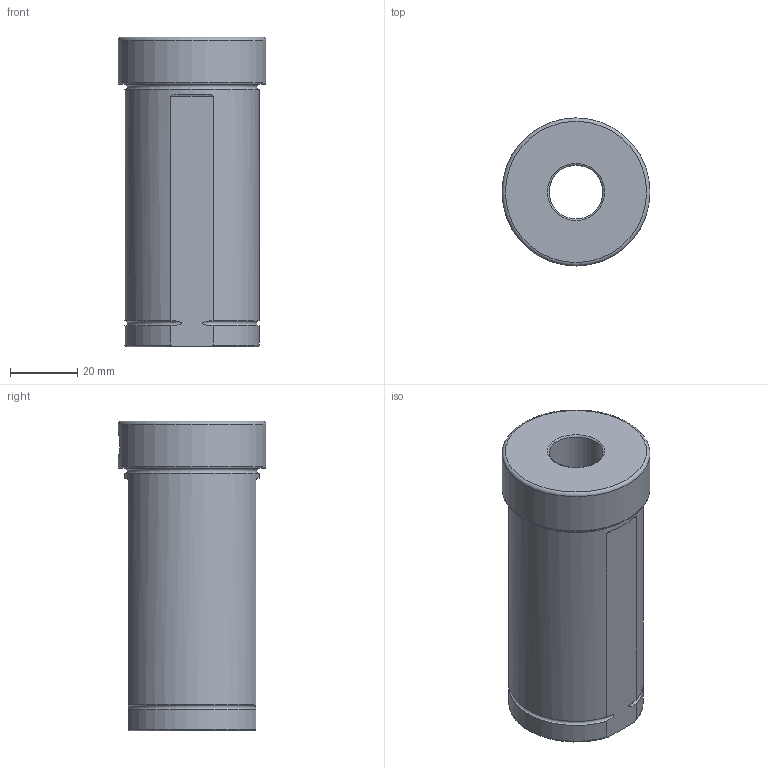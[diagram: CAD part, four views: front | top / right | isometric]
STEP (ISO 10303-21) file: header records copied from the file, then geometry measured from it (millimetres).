
FILE_DESCRIPTION(/* description */ (''),/* implementation_level */ '2;1');
FILE_NAME(/* name */ '',/* time_stamp */ '2025-08-20T14:03:51+03:00',/* author */ ('User'),/* organization */ (''),/* preprocessor_version */ 'ST-DEVELOPER v19.2',/* originating_system */ 'Autodesk Inventor 2024',/* authorisation */ '');
FILE_SCHEMA (('AUTOMOTIVE_DESIGN { 1 0 10303 214 3 1 1 }'));
Length unit declared in the file: millimetre
Products named in the file (1): Втулка переходная 
D40-d6
Bounding box: 44 x 44 x 92 mm (x, y, z)
Volume: 87921 mm3; surface area: 20943.1 mm2
Topology: 1 solids, 1 shells, 67 faces, 156 edges, 104 vertices
Faces by surface type: plane 38, cylinder 17, torus 11, bspline 1
Full cylindrical faces by diameter (mm): 7 x3, 7.2 x3, 8 x3, 16 x1, 25 x1, 40 x1, 44 x1
Entity records: 2296 total; most frequent: CARTESIAN_POINT 626, DIRECTION 330, ORIENTED_EDGE 312, EDGE_CURVE 156, AXIS2_PLACEMENT_3D 124, VERTEX_POINT 104, LINE 82, VECTOR 82
